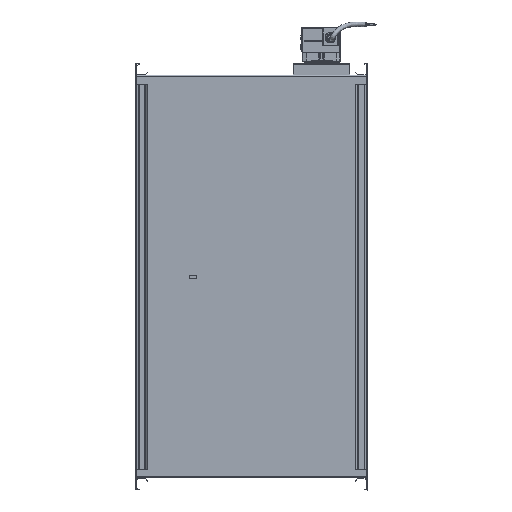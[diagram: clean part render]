
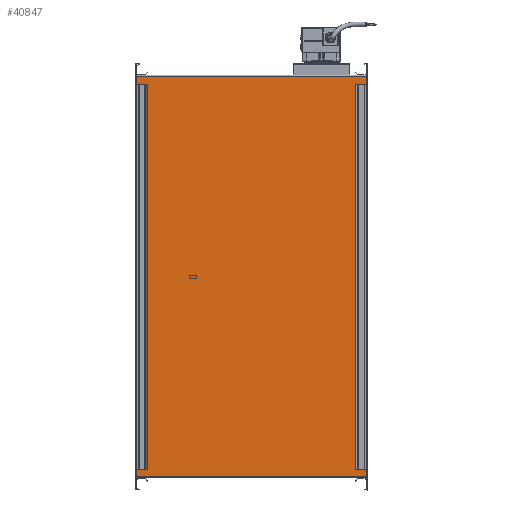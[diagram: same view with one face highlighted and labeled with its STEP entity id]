
A CAD part, front view. The second image highlights one B-rep face of the part: STEP entity #40847.
In plain terms, the highlighted planar face has unit normal (0, -1, 0).
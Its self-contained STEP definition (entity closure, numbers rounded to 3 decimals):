
#561 = LINE ( 'NONE', #13586, #43040 ) ;
#2094 = PLANE ( 'NONE',  #40699 ) ;
#2394 = CARTESIAN_POINT ( 'NONE',  ( -244.423, -85.848, 752. ) ) ;
#13576 = DIRECTION ( 'NONE',  ( 0., 0., -1. ) ) ;
#13586 = CARTESIAN_POINT ( 'NONE',  ( -244.423, -85.848, 752. ) ) ;
#23426 = VECTOR ( 'NONE', #84347, 1000. ) ;
#24665 = EDGE_CURVE ( 'NONE', #31511, #91219, #37663, .T. ) ;
#28844 = EDGE_CURVE ( 'NONE', #68253, #38397, #88104, .T. ) ;
#30420 = CARTESIAN_POINT ( 'NONE',  ( -244.423, -85.848, 752. ) ) ;
#31511 = VERTEX_POINT ( 'NONE', #91859 ) ;
#33556 = LINE ( 'NONE', #41408, #56846 ) ;
#34951 = ORIENTED_EDGE ( 'NONE', *, *, #85891, .F. ) ;
#37663 = LINE ( 'NONE', #2394, #41879 ) ;
#38397 = VERTEX_POINT ( 'NONE', #83974 ) ;
#38693 = CARTESIAN_POINT ( 'NONE',  ( -244.423, -85.848, 1448. ) ) ;
#40699 = AXIS2_PLACEMENT_3D ( 'NONE', #30420, #80516, #51733 ) ;
#40847 = ADVANCED_FACE ( 'NONE', ( #72613 ), #2094, .T. ) ;
#41408 = CARTESIAN_POINT ( 'NONE',  ( 155.577, -85.848, 752. ) ) ;
#41879 = VECTOR ( 'NONE', #58971, 1000. ) ;
#43040 = VECTOR ( 'NONE', #76720, 1000. ) ;
#44080 = EDGE_LOOP ( 'NONE', ( #34951, #90131, #78510, #59698 ) ) ;
#48152 = CARTESIAN_POINT ( 'NONE',  ( -244.423, -85.848, 1448. ) ) ;
#51733 = DIRECTION ( 'NONE',  ( 0., 0., -1. ) ) ;
#56846 = VECTOR ( 'NONE', #13576, 1000. ) ;
#58971 = DIRECTION ( 'NONE',  ( 1., 0., 0. ) ) ;
#59698 = ORIENTED_EDGE ( 'NONE', *, *, #24665, .T. ) ;
#67338 = EDGE_CURVE ( 'NONE', #68253, #31511, #561, .T. ) ;
#68253 = VERTEX_POINT ( 'NONE', #38693 ) ;
#72613 = FACE_OUTER_BOUND ( 'NONE', #44080, .T. ) ;
#76720 = DIRECTION ( 'NONE',  ( 0., 0., -1. ) ) ;
#78510 = ORIENTED_EDGE ( 'NONE', *, *, #67338, .T. ) ;
#80516 = DIRECTION ( 'NONE',  ( 0., -1., 0. ) ) ;
#81769 = CARTESIAN_POINT ( 'NONE',  ( 155.577, -85.848, 752. ) ) ;
#83974 = CARTESIAN_POINT ( 'NONE',  ( 155.577, -85.848, 1448. ) ) ;
#84347 = DIRECTION ( 'NONE',  ( 1., 0., 0. ) ) ;
#85891 = EDGE_CURVE ( 'NONE', #38397, #91219, #33556, .T. ) ;
#88104 = LINE ( 'NONE', #48152, #23426 ) ;
#90131 = ORIENTED_EDGE ( 'NONE', *, *, #28844, .F. ) ;
#91219 = VERTEX_POINT ( 'NONE', #81769 ) ;
#91859 = CARTESIAN_POINT ( 'NONE',  ( -244.423, -85.848, 752. ) ) ;
